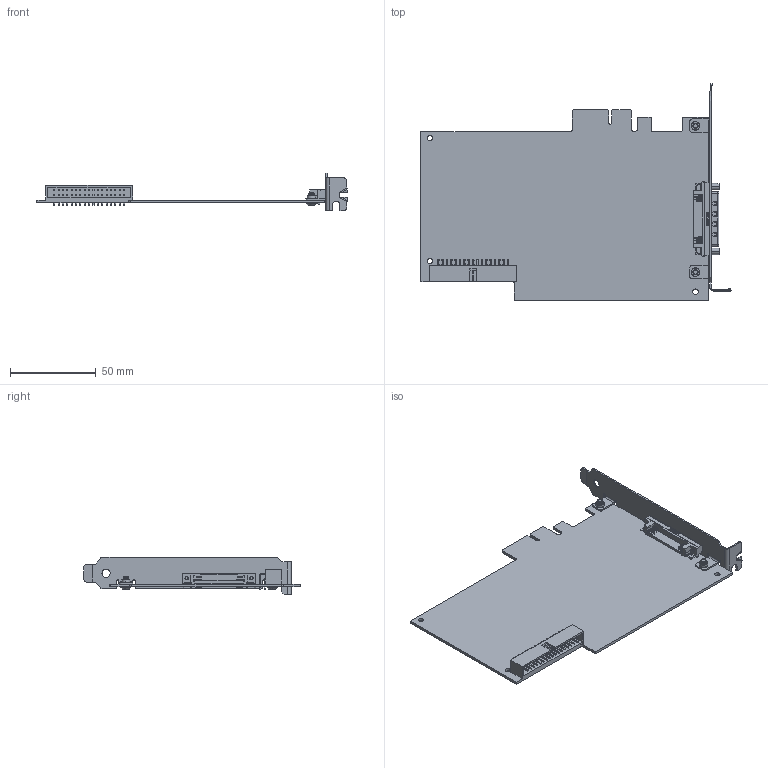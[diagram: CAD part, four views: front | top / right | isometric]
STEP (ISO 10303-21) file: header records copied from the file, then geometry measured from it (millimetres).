
FILE_DESCRIPTION((''),'2;1');
FILE_NAME('CCA_PCIE_6738_ASM','2017-11-07T',('dkendric'),(''),'CREO PARAMETRIC BY PTC INC, 2015380','CREO PARAMETRIC BY PTC INC, 2015380','');
FILE_SCHEMA(('CONFIG_CONTROL_DESIGN'));
Products named in the file (1): CCA_PCIE_6738_ASM
Bounding box: 180.92 x 126.32 x 21.59 mm (x, y, z)
Volume: 32114.7 mm3; surface area: 44812 mm2
Topology: 9 solids, 11 shells, 1871 faces, 5294 edges, 3461 vertices
Faces by surface type: plane 1264, cylinder 489, bspline 61, extrusion 22, torus 17, cone 14, sphere 4
Entity records: 67126 total; most frequent: CARTESIAN_POINT 18448, ORIENTED_EDGE 10484, DIRECTION 9404, EDGE_CURVE 5290, VECTOR 3954, LINE 3932, VERTEX_POINT 3461, AXIS2_PLACEMENT_3D 2725
